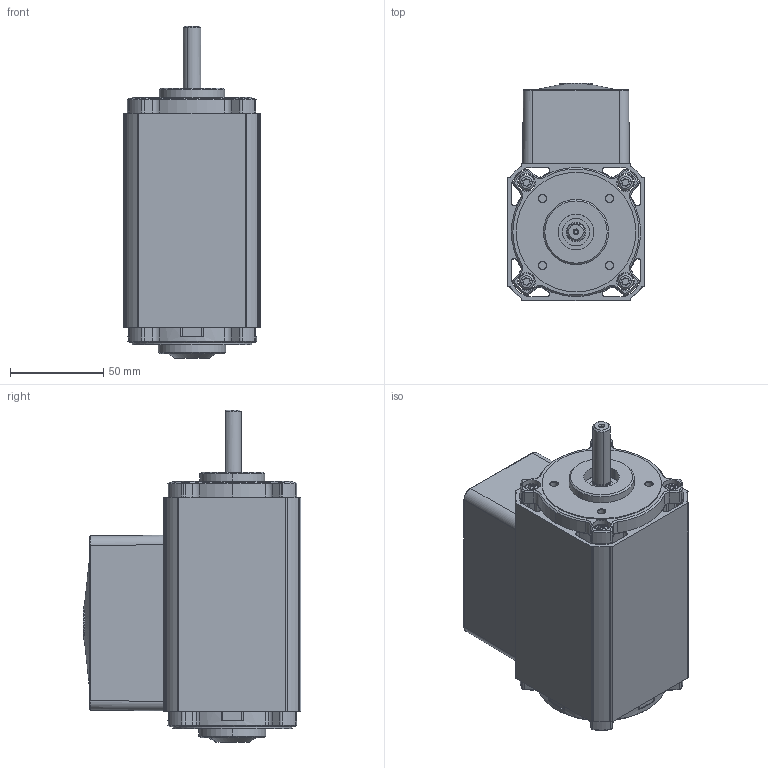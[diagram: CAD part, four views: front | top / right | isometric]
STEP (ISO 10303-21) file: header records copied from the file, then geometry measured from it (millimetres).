
FILE_DESCRIPTION (( 'STEP AP203' ), '1' );
FILE_NAME ('OUTLINE AC6540NV.STEP', '2006-09-21T13:59:00', ( 'Groschopp' ), ( 'Groschopp' ), 'SwSTEP 2.0', 'SolidWorks 2007', '' );
FILE_SCHEMA (( 'CONFIG_CONTROL_DESIGN' ));
Length unit declared in the file: inch
Products named in the file (1): OUTLINE AC6540NV
Bounding box: 73.25 x 116.5 x 177.77 mm (x, y, z)
Surface area: 109296.1 mm2 (no closed solid volume)
Topology: 0 solids, 30 shells, 769 faces, 2392 edges, 1629 vertices
Faces by surface type: cylinder 335, plane 288, cone 79, torus 28, bspline 23, sphere 16
Entity records: 30473 total; most frequent: CARTESIAN_POINT 9228, DIRECTION 4551, ORIENTED_EDGE 4199, EDGE_CURVE 2392, AXIS2_PLACEMENT_3D 1745, VERTEX_POINT 1629, VECTOR 1061, LINE 1061
